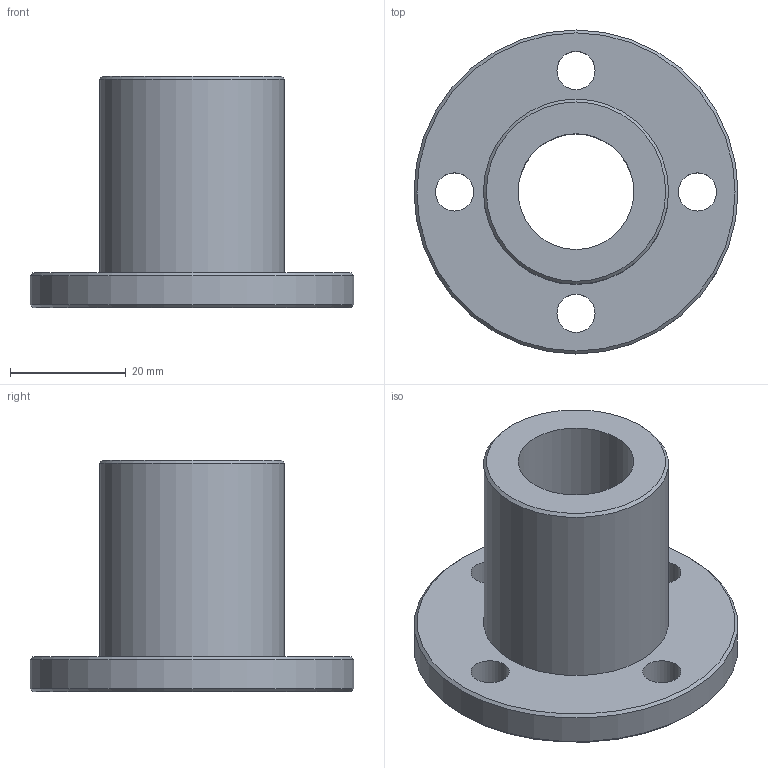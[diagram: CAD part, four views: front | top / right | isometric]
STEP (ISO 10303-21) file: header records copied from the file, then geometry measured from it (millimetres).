
FILE_DESCRIPTION(('STEP AP203'),'1');
FILE_NAME('//192.168.1.1/share/s-4 技術開発/s-4-4_CAD/s-4-4-3_見直し済み/018 修正済み/TMFON/TMFON_TOP/TMFON-20R.step','2022-02-08T05:36:39',(' '),(' '),'Spatial InterOp 3D',' ',' ');
FILE_SCHEMA(('CONFIG_CONTROL_DESIGN'));
Length unit declared in the file: millimetre
Products named in the file (1): 1
Bounding box: 56 x 56 x 40 mm (x, y, z)
Volume: 28678.9 mm3; surface area: 11375.1 mm2
Topology: 1 solids, 1 shells, 13 faces, 27 edges, 17 vertices
Faces by surface type: cylinder 7, plane 3, cone 3
Full cylindrical faces by diameter (mm): 6.6 x4, 20 x1, 32 x1, 56 x1
Entity records: 368 total; most frequent: DIRECTION 62, CARTESIAN_POINT 48, EDGE_LOOP 34, ORIENTED_EDGE 34, AXIS2_PLACEMENT_3D 31, FACE_OUTER_BOUND 20, EDGE_CURVE 17, VERTEX_POINT 17
